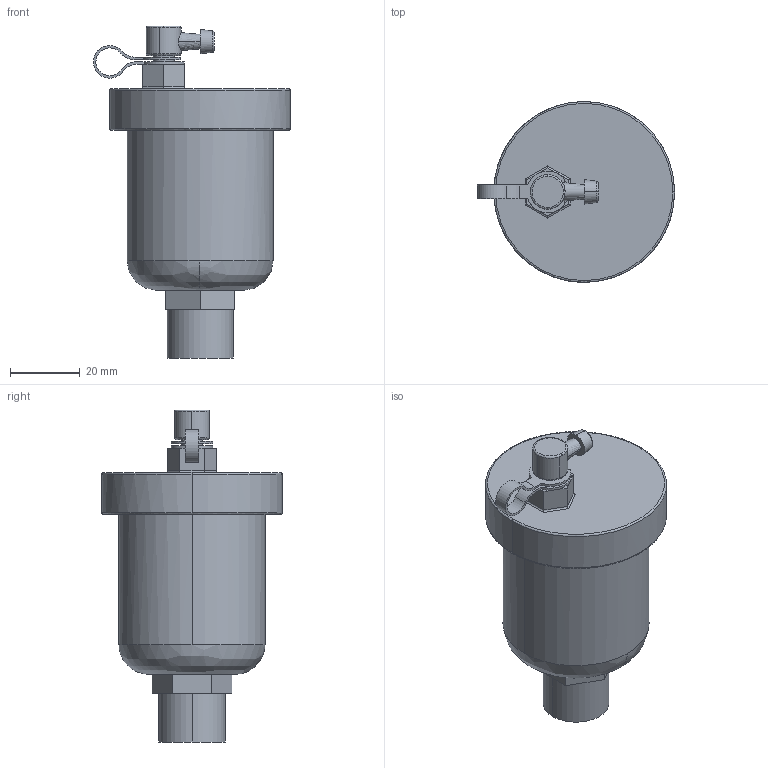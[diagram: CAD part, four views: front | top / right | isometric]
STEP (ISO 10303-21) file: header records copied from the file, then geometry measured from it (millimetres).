
FILE_DESCRIPTION( (''), '2;1');
FILE_NAME ('PC1027.10420.TA-22ML 15A_4320.stp','2025-07-29T11:38:37',(''),(''),'spGate 20.6.3 (****-****-****-****)','','');
FILE_SCHEMA (('AUTOMOTIVE_DESIGN'));
Length unit declared in the file: millimetre
Bounding box: 56.7 x 52 x 95.5 mm (x, y, z)
Volume: 95257.2 mm3; surface area: 14295 mm2
Topology: 1 solids, 1 shells, 81 faces, 204 edges, 133 vertices
Faces by surface type: plane 36, cylinder 29, bspline 16
Entity records: 4417 total; most frequent: CARTESIAN_POINT 871, ORIENTED_EDGE 408, DIRECTION 383, COLOUR_RGB 286, PRESENTATION_STYLE_ASSIGNMENT 286, STYLED_ITEM 286, EDGE_CURVE 204, DRAUGHTING_PRE_DEFINED_CURVE_FONT 204
